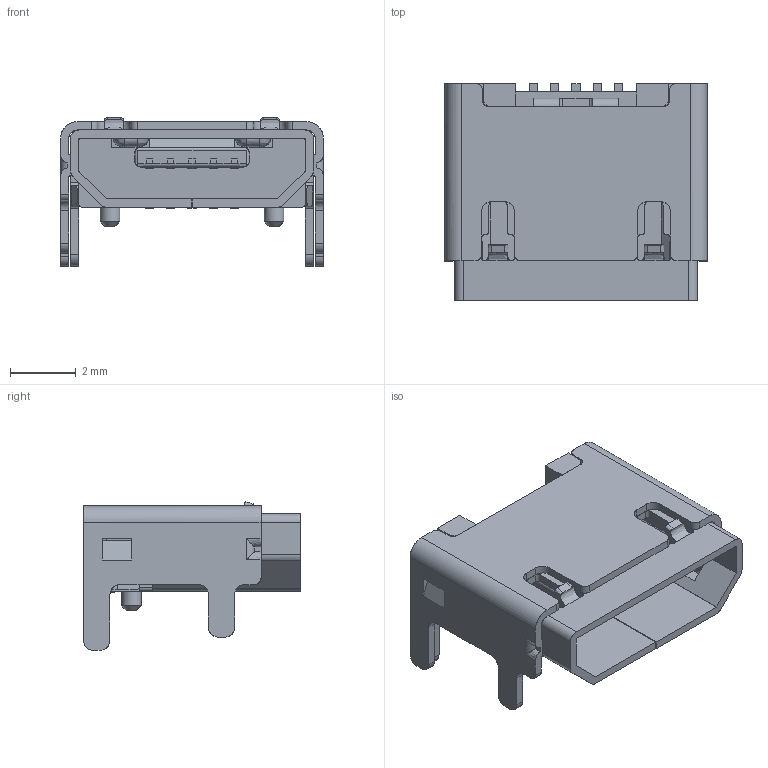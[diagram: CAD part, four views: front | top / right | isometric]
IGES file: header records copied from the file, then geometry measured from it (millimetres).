
Start section: C
Global section: file name: 629105150521.iges; native system: By Siemens PLM Incorporated; preprocessor: XPlus GENERIC/IGES 19.0.9; author: Author; organization: Title; date: 20170410.153055; units: millimetre
Bounding box: 8 x 6.6 x 4.52 mm (x, y, z)
Surface area: 518.4 mm2 (no closed solid volume)
Topology: 0 solids, 0 shells, 598 faces, 3484 edges, 3484 vertices
Faces by surface type: bspline 598
